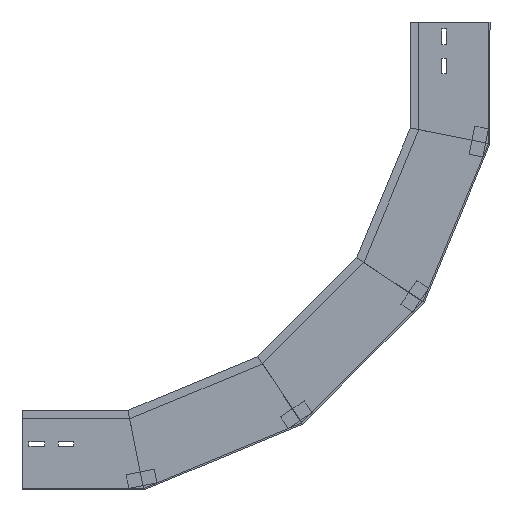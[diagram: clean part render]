
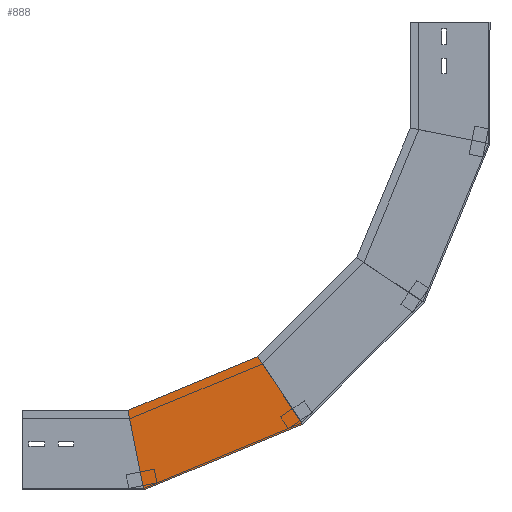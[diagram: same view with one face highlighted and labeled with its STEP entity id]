
A CAD part, left-side view. The second image highlights one B-rep face of the part: STEP entity #888.
In plain terms, the highlighted planar face has unit normal (-1, 0, 0) as drawn and (1, 0, 0) by its records, which use the part's own axes.
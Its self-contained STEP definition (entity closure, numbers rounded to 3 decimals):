
#3 = LINE ( 'NONE', #1312, #1766 ) ;
#31 = ORIENTED_EDGE ( 'NONE', *, *, #40, .F. ) ;
#40 = EDGE_CURVE ( 'NONE', #1883, #944, #553, .T. ) ;
#63 = ORIENTED_EDGE ( 'NONE', *, *, #1065, .T. ) ;
#82 = VECTOR ( 'NONE', #1154, 1000. ) ;
#96 = CARTESIAN_POINT ( 'NONE',  ( 0., 93.03, -396.695 ) ) ;
#165 = LINE ( 'NONE', #1017, #82 ) ;
#228 = CARTESIAN_POINT ( 'NONE',  ( 0., 0., -172.1 ) ) ;
#366 = ORIENTED_EDGE ( 'NONE', *, *, #587, .F. ) ;
#377 = VERTEX_POINT ( 'NONE', #228 ) ;
#441 = VERTEX_POINT ( 'NONE', #1880 ) ;
#512 = LINE ( 'NONE', #1817, #1083 ) ;
#553 = LINE ( 'NONE', #686, #801 ) ;
#587 = EDGE_CURVE ( 'NONE', #441, #1883, #165, .T. ) ;
#627 = DIRECTION ( 'NONE',  ( 0., 0.383, -0.924 ) ) ;
#686 = CARTESIAN_POINT ( 'NONE',  ( 0., 132.464, -370.346 ) ) ;
#768 = EDGE_CURVE ( 'NONE', #377, #944, #512, .T. ) ;
#801 = VECTOR ( 'NONE', #1270, 1000. ) ;
#811 = FACE_OUTER_BOUND ( 'NONE', #1563, .T. ) ;
#819 = CARTESIAN_POINT ( 'NONE',  ( 0., 0., -172.1 ) ) ;
#888 = ADVANCED_FACE ( 'NONE', ( #811 ), #1543, .F. ) ;
#944 = VERTEX_POINT ( 'NONE', #96 ) ;
#1017 = CARTESIAN_POINT ( 'NONE',  ( 0., 103.936, -129.048 ) ) ;
#1018 = DIRECTION ( 'NONE',  ( 0., -0.981, -0.195 ) ) ;
#1033 = CARTESIAN_POINT ( 'NONE',  ( 0., 188.403, -332.969 ) ) ;
#1065 = EDGE_CURVE ( 'NONE', #441, #377, #3, .T. ) ;
#1083 = VECTOR ( 'NONE', #627, 1000. ) ;
#1154 = DIRECTION ( 'NONE',  ( 0., 0.383, -0.924 ) ) ;
#1270 = DIRECTION ( 'NONE',  ( 0., -0.831, -0.556 ) ) ;
#1312 = CARTESIAN_POINT ( 'NONE',  ( 0., 32.93, -165.55 ) ) ;
#1394 = DIRECTION ( 'NONE',  ( -1., 0., 0. ) ) ;
#1435 = DIRECTION ( 'NONE',  ( 0., 0., 1. ) ) ;
#1543 = PLANE ( 'NONE',  #1890 ) ;
#1563 = EDGE_LOOP ( 'NONE', ( #366, #63, #1597, #31 ) ) ;
#1597 = ORIENTED_EDGE ( 'NONE', *, *, #768, .T. ) ;
#1766 = VECTOR ( 'NONE', #1018, 1000. ) ;
#1817 = CARTESIAN_POINT ( 'NONE',  ( 0., 0., -172.1 ) ) ;
#1880 = CARTESIAN_POINT ( 'NONE',  ( 0., 112.5, -149.722 ) ) ;
#1883 = VERTEX_POINT ( 'NONE', #1033 ) ;
#1890 = AXIS2_PLACEMENT_3D ( 'NONE', #819, #1394, #1435 ) ;
